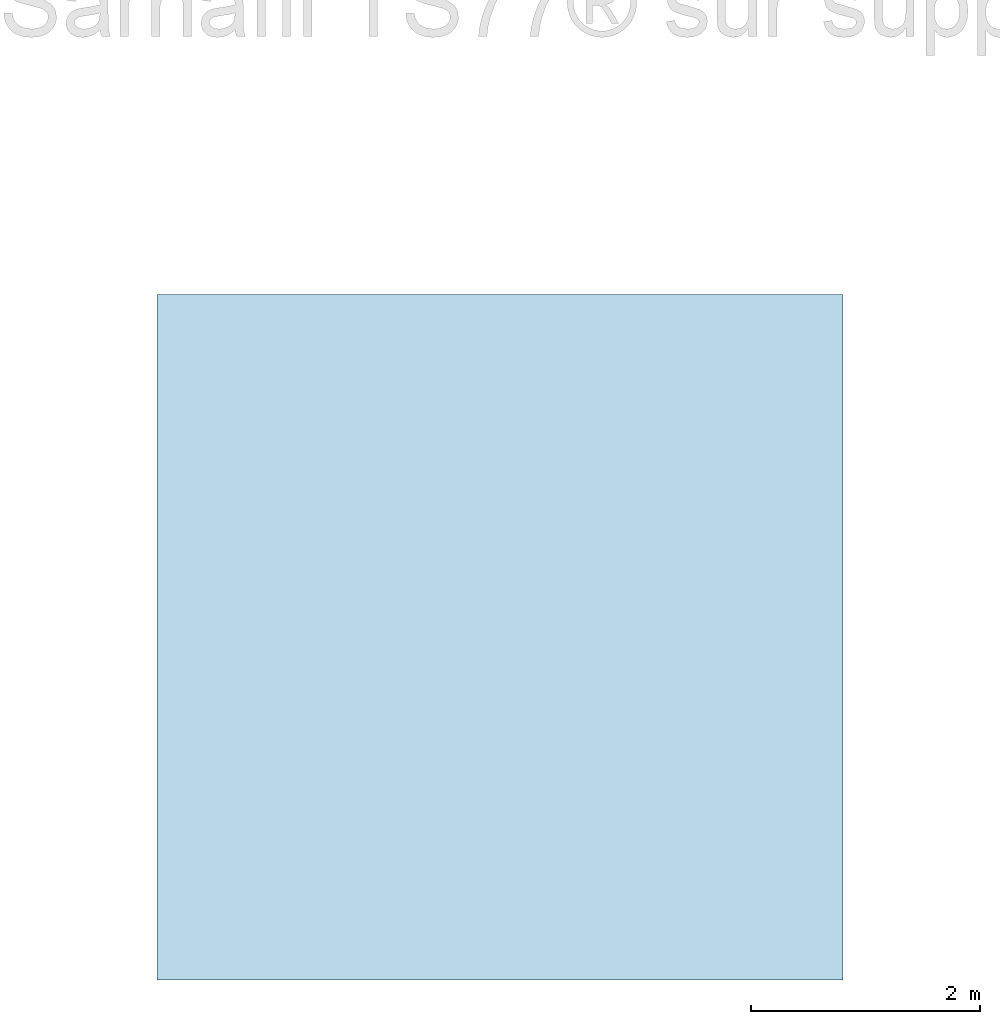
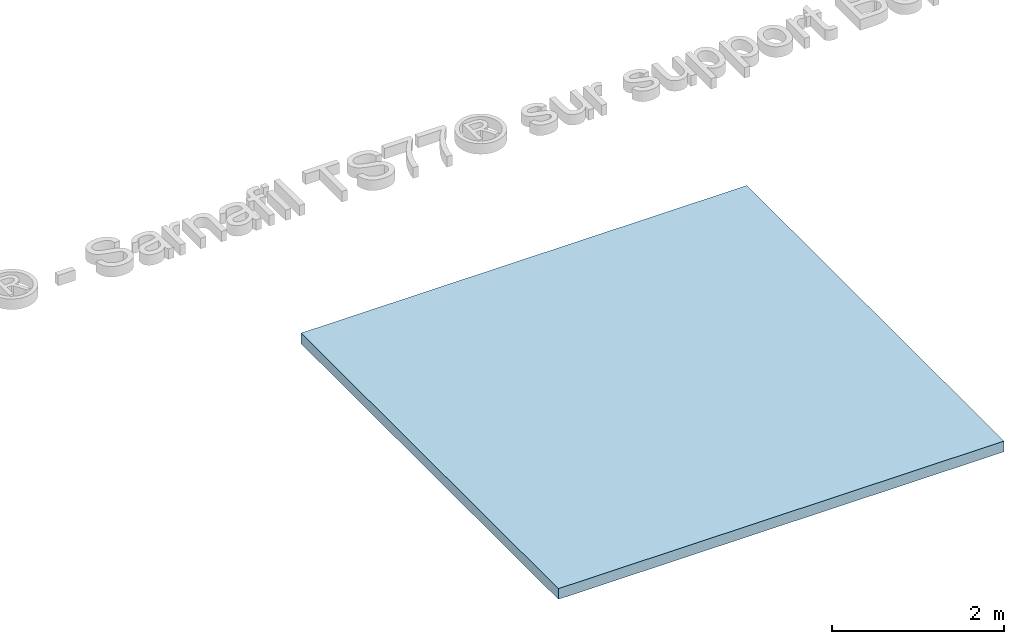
# One storey, incomplete: 1 slab, 1 element without a shape of its own.
"""IFC2X3 building model written with IfcOpenShell, lengths in millimetres."""

from ifc_helpers import new_model, entity, si_unit, converted_unit, derived_unit, direction, frame, origin, origin_2d_with_axis, place, context, subcontext, project, spatial, rectangle, extrude, material, layer, layer_set, element, aggregate, save


model = new_model("IFC2X3")

# Units and contexts
model_context = context("Model", 3, precision=0.01, world=origin(), true_north=direction((6.12303176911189e-17, 1.0)))
context_of_model = context(None, 3, precision=0.01, world=origin(), true_north=direction((6.12303176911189e-17, 1.0)))
body_context = subcontext(model_context, "Body", "Model", "MODEL_VIEW")
ifc_project = project(units=[si_unit("LENGTHUNIT", "METRE", prefix="MILLI"), si_unit("AREAUNIT", "SQUARE_METRE"), si_unit("VOLUMEUNIT", "CUBIC_METRE"), converted_unit("PLANEANGLEUNIT", "DEGREE", entity("IfcRatioMeasure", 0.0174532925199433), si_unit("PLANEANGLEUNIT", "RADIAN"), dimensions=[0, 0, 0, 0, 0, 0, 0]), si_unit("MASSUNIT", "GRAM", prefix="KILO"), si_unit("TIMEUNIT", "SECOND"), si_unit("FREQUENCYUNIT", "HERTZ"), si_unit("THERMODYNAMICTEMPERATUREUNIT", "DEGREE_CELSIUS"), derived_unit("THERMALTRANSMITTANCEUNIT", [(si_unit("MASSUNIT", "GRAM", prefix="KILO"), 1), (si_unit("THERMODYNAMICTEMPERATUREUNIT", "KELVIN"), -1), (si_unit("TIMEUNIT", "SECOND"), -3)]), derived_unit("VOLUMETRICFLOWRATEUNIT", [(si_unit("LENGTHUNIT", "METRE"), 3), (si_unit("TIMEUNIT", "SECOND"), -1)]), si_unit("ELECTRICCURRENTUNIT", "AMPERE"), si_unit("ELECTRICVOLTAGEUNIT", "VOLT"), si_unit("POWERUNIT", "WATT"), si_unit("FORCEUNIT", "NEWTON", prefix="KILO"), si_unit("ILLUMINANCEUNIT", "LUX"), si_unit("LUMINOUSFLUXUNIT", "LUMEN"), si_unit("LUMINOUSINTENSITYUNIT", "CANDELA"), si_unit("PRESSUREUNIT", "PASCAL")], contexts=[model_context, context_of_model])

# Site, building, storey
site_placement = place(None, origin())
site = spatial("IfcSite", under=ifc_project, at=site_placement, Name="Default", CompositionType="ELEMENT")
building_placement = place(site_placement, origin())
building = spatial("IfcBuilding", under=site, at=building_placement, CompositionType="ELEMENT")
storey_placement = place(building_placement, origin())
storey = spatial("IfcBuildingStorey", under=building, at=storey_placement, Name="Level 1", CompositionType="ELEMENT", Elevation=0.0)

# Roof, slab
roof_placement = place(storey_placement, frame((6429.65024839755, -501.04837446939, 0.0)))
roof = element("IfcRoof", 1, at=roof_placement, inside=storey, Name="Basic Roof:Sika® - Sarnafil TS77® sur support Bois", ObjectType="Basic Roof:Sika® - Sarnafil TS77® sur support Bois", ShapeType="NOTDEFINED")
ifc_material_1 = material(Name="Sika - Sarnafil® TS 77-20")
ifc_layer_1 = layer(ifc_material_1, 2.0)
ifc_material_2 = material(Name="Isolation thermique - Laine de roche")
ifc_layer_2 = layer(ifc_material_2, 100.0)
ifc_material_3 = material(Name="Bois")
ifc_layer_3 = layer(ifc_material_3, 50.0)
ifc_layer_set = layer_set([ifc_layer_1, ifc_layer_2, ifc_layer_3], Name="Basic Roof:Sika® - Sarnafil TS77® sur support Bois")
slab_placement = place(roof_placement, origin())
slab = element("IfcSlab", 2, at=slab_placement, material=ifc_layer_set, Name="Basic Roof:Sika® - Sarnafil TS77® sur support Bois", ObjectType="Basic Roof:Sika® - Sarnafil TS77® sur support Bois", PredefinedType="ROOF", context=body_context, shape_type="SweptSolid", body=[
    extrude(rectangle(XDim=6000.0, YDim=6000.0, at=origin_2d_with_axis()), frame((3000.0, 3000.0, 0.0)), (0.0, 0.0, 1.0), 152.0),
])
aggregate(roof, [slab])

save(model, "model.ifc")
